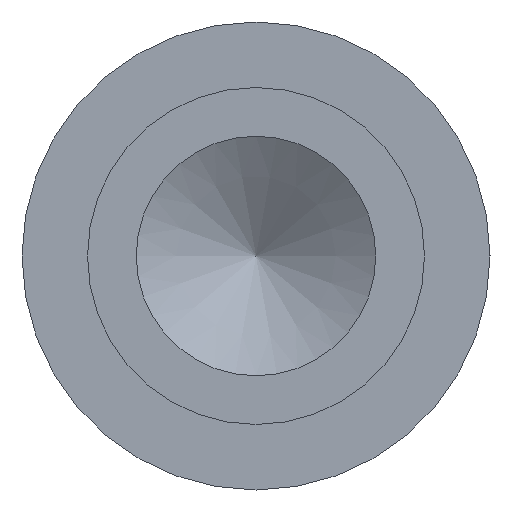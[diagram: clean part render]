
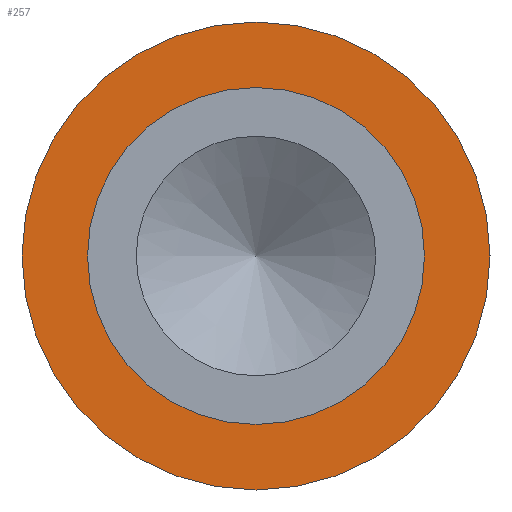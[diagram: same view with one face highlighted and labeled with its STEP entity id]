
A CAD part, left-side view. The second image highlights one B-rep face of the part: STEP entity #257.
In plain terms, the highlighted planar face has unit normal (-1, 0, 0).
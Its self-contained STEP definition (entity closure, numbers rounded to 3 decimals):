
#19=PLANE($,#289);
#30=FACE_BOUND($,#91,.T.);
#67=FACE_OUTER_BOUND($,#90,.T.);
#90=EDGE_LOOP($,(#210));
#91=EDGE_LOOP($,(#211));
#135=CIRCLE($,#287,1.143);
#137=CIRCLE($,#290,1.588);
#159=VERTEX_POINT($,#439);
#161=VERTEX_POINT($,#444);
#183=EDGE_CURVE($,#159,#159,#135,.T.);
#185=EDGE_CURVE($,#161,#161,#137,.T.);
#210=ORIENTED_EDGE($,*,*,#185,.F.);
#211=ORIENTED_EDGE($,*,*,#183,.T.);
#257=ADVANCED_FACE($,(#67,#30),#19,.T.);
#287=AXIS2_PLACEMENT_3D($,#440,#343,#344);
#289=AXIS2_PLACEMENT_3D($,#443,#347,#348);
#290=AXIS2_PLACEMENT_3D($,#445,#349,#350);
#343=DIRECTION('center_axis',(1.,0.,0.));
#344=DIRECTION('ref_axis',(0.,1.,0.));
#347=DIRECTION('center_axis',(-1.,0.,0.));
#348=DIRECTION('ref_axis',(0.,0.,1.));
#349=DIRECTION('center_axis',(1.,0.,0.));
#350=DIRECTION('ref_axis',(0.,1.,0.));
#439=CARTESIAN_POINT('',(2.388,1.143,0.));
#440=CARTESIAN_POINT('Origin',(2.388,0.,0.));
#443=CARTESIAN_POINT('Origin',(2.388,1.365,0.));
#444=CARTESIAN_POINT('',(2.388,1.588,0.));
#445=CARTESIAN_POINT('Origin',(2.388,0.,0.));
